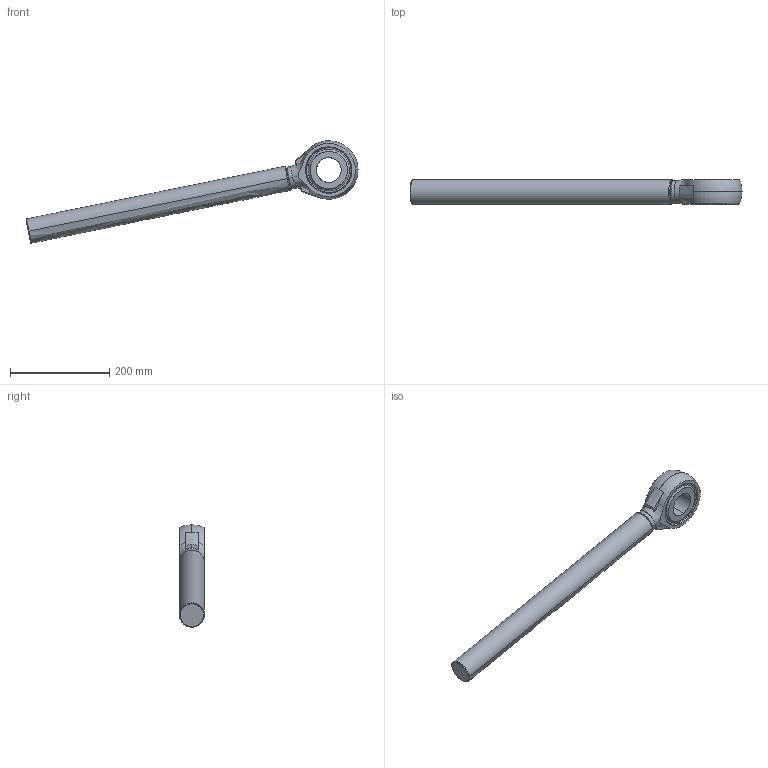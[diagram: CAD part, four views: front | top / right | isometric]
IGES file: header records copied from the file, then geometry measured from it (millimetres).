
Start section: SolidWorks IGES file using analytic representation for surfaces
Global section: file name: C:\DATA\SAP_DOC\LW\IRB 6730\IRB6730-MH3_270kg-270_OC_01_SW_J\Export\IRB6730-MH3_270kg-270_OC_01_IGES_J\IRB6730-MH3_270kg-270_OC_00_ROD_CAD.igs; native system: SolidWorks 2024; preprocessor: SolidWorks 2024; author: SEJOVAS3; date: 260526.113950; units: millimetre
Bounding box: 670.23 x 50.5 x 206.65 mm (x, y, z)
Surface area: 135243.1 mm2 (no closed solid volume)
Topology: 0 solids, 0 shells, 58 faces, 1469 edges, 1468 vertices
Faces by surface type: revolution 30, bspline 28
